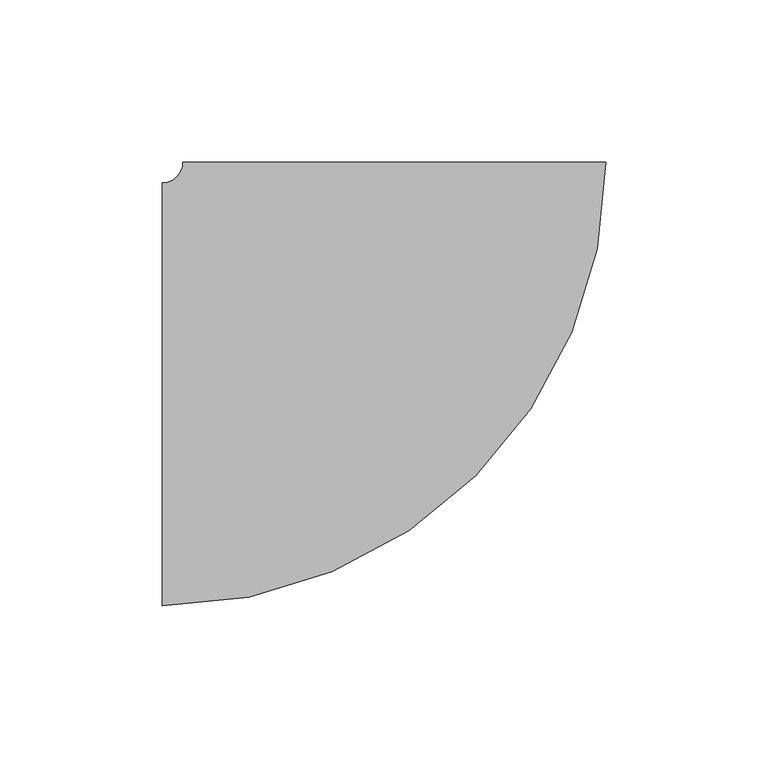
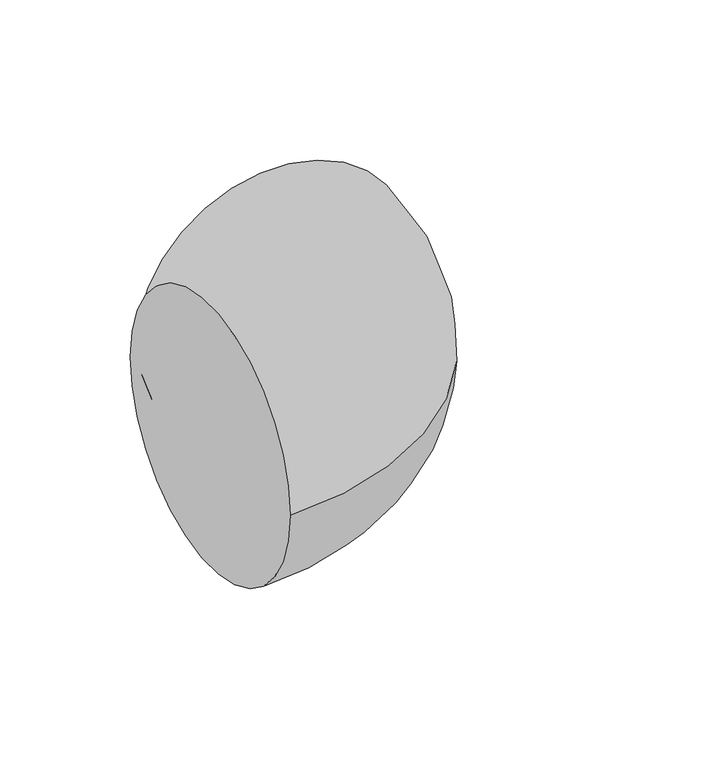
"""IFC4 building model written with IfcOpenShell, lengths in millimetres: pipe fitting geometry, M_Codo - Genérico : Estándar."""

from ifc_helpers import new_model, si_unit, point, frame, origin, place, context, project, spatial, circle_curve, ellipse_curve, trimmed, source, transform, mapped, element, save
from ifc_brep_helpers import plane_surface, revolved_surface, advanced_brep


def pipe_fitting_932eafa3(model_context):
    return source(origin(), model_context, "Body", "AdvancedBrep", [
        advanced_brep(
        [(-71.4303573, -65.0875, 0.0), (-71.4303573, 65.0875, 0.0), (65.094642, 71.4238489, 0.0), (-65.0803574, 71.4368651, 0.0)],
        [
            (0, 1, circle_curve(frame((-71.4303573, 0.0, 0.0), z_axis=(-1.0, 0.0, 0.0), x_axis=(0.0, 1.0, 0.0)), 65.0875)),
            (1, 0, circle_curve(frame((-71.4303573, 0.0, 0.0), z_axis=(-1.0, 0.0, 0.0), x_axis=(0.0, 1.0, 0.0)), 65.0875)),
            (2, 3, circle_curve(frame((0.0071423, 71.430357, 0.0), z_axis=(9.999000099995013e-05, 0.9999999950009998, 0.0), x_axis=(-0.9999999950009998, 9.999000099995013e-05, 0.0)), 65.0875)),
            (3, 2, circle_curve(frame((0.0071423, 71.430357, 0.0), z_axis=(9.999000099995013e-05, 0.9999999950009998, 0.0), x_axis=(-0.9999999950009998, 9.999000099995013e-05, 0.0)), 65.0875)),
            (3, 1, circle_curve(frame((-71.4303573, 71.4375, 0.0), z_axis=(0.0, 0.0, -1.0), x_axis=(0.0, -1.0, 0.0)), 6.35)),
            (0, 2, circle_curve(frame((-71.4303573, 71.4375, 0.0), z_axis=(0.0, 0.0, 1.0), x_axis=(0.0, -1.0, 0.0)), 136.525)),
        ],
        [
            plane_surface(frame((-71.4303573, 0.0, 0.0), z_axis=(-1.0, 0.0, 0.0), x_axis=(0.0, 0.0, 1.0))),
            plane_surface(frame((0.0071423, 71.430357, 0.0), z_axis=(9.999000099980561e-05, 0.9999999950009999, 0.0), x_axis=(0.0, 0.0, 1.0))),
            revolved_surface(trimmed(ellipse_curve(frame((-71.4303573, 0.0, 0.0), z_axis=(-1.0, 0.0, 0.0), x_axis=(0.0, 1.0, 0.0)), 65.0875, 65.0875), [point((-71.4303573, -65.0875, 0.0))], [point((-71.4303573, 65.0875, 0.0))], True, "CARTESIAN"), (-71.4303573, 71.4375, 0.0), (0.0, 0.0, 1.0)),
            revolved_surface(trimmed(ellipse_curve(frame((-71.4303573, 0.0, 0.0), z_axis=(-1.0, 0.0, 0.0), x_axis=(0.0, 1.0, 0.0)), 65.0875, 65.0875), [point((-71.4303573, 65.0875, 0.0))], [point((-71.4303573, -65.0875, 0.0))], True, "CARTESIAN"), (-71.4303573, 71.4375, 0.0), (0.0, 0.0, 1.0)),
        ],
        [
            (0, [[1, 2]]),
            (1, [[3, 4]]),
            (2, [[5, -1, 6, -4]]),
            (3, [[-6, -2, -5, -3]]),
        ],
    ),
    ])


if __name__ == "__main__":
    model = new_model("IFC4")
    model_context = context("Model", 3, world=origin())
    ifc_project = project(units=[si_unit("LENGTHUNIT", "METRE", prefix="MILLI")], contexts=[model_context])
    site = spatial("IfcSite", under=ifc_project)
    building = spatial("IfcBuilding", under=site)
    placement = place(None, origin())
    pipe_fitting_shape = pipe_fitting_932eafa3(model_context)
    element("IfcPipeFitting", 1, ObjectType="M_Codo - Genérico : Estándar", at=placement, inside=building, context=model_context, shape_type="MappedRepresentation", body=[
        mapped(pipe_fitting_shape, transform((0.0, 0.0, 0.0), x_axis=(1.0, 0.0, 0.0), y_axis=(0.0, 1.0, 0.0), z_axis=(0.0, 0.0, 1.0))),
    ])
    save(model, "model.ifc")
